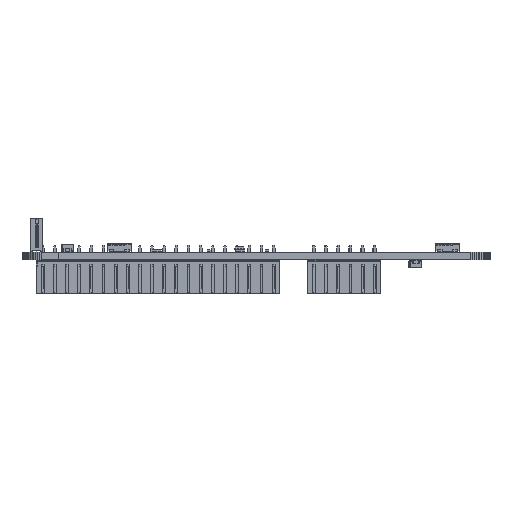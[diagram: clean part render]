
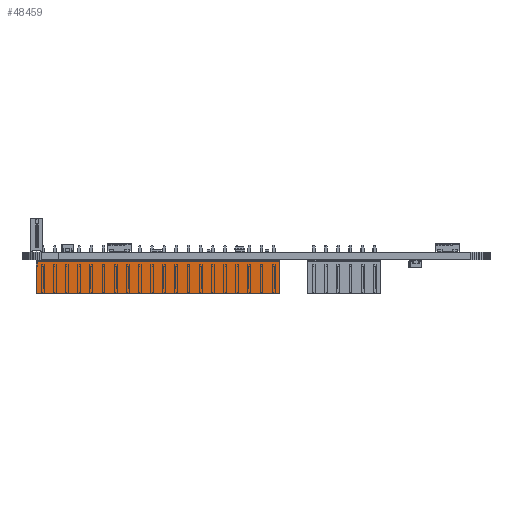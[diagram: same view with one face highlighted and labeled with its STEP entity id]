
A CAD part, left-side view. The second image highlights one B-rep face of the part: STEP entity #48459.
In plain terms, the highlighted planar face has unit normal (-1, 0, 0).
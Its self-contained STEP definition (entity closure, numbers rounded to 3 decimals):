
#35053 = PLANE('',#35054);
#35054 = AXIS2_PLACEMENT_3D('',#35055,#35056,#35057);
#35055 = CARTESIAN_POINT('',(-3.81,-49.53,0.));
#35056 = DIRECTION('',(0.,1.,0.));
#35057 = DIRECTION('',(1.,0.,0.));
#35081 = PLANE('',#35082);
#35082 = AXIS2_PLACEMENT_3D('',#35083,#35084,#35085);
#35083 = CARTESIAN_POINT('',(1.27,-49.53,7.));
#35084 = DIRECTION('',(-0.,0.,-1.));
#35085 = DIRECTION('',(0.,-1.,-0.));
#35109 = PLANE('',#35110);
#35110 = AXIS2_PLACEMENT_3D('',#35111,#35112,#35113);
#35111 = CARTESIAN_POINT('',(1.27,1.27,0.));
#35112 = DIRECTION('',(0.,-1.,0.));
#35113 = DIRECTION('',(-1.,0.,0.));
#35151 = VERTEX_POINT('',#35152);
#35152 = CARTESIAN_POINT('',(-3.81,-49.53,0.));
#35168 = PLANE('',#35169);
#35169 = AXIS2_PLACEMENT_3D('',#35170,#35171,#35172);
#35170 = CARTESIAN_POINT('',(1.27,-49.53,0.));
#35171 = DIRECTION('',(-0.,0.,-1.));
#35172 = DIRECTION('',(0.,-1.,-0.));
#35180 = EDGE_CURVE('',#35151,#35181,#35183,.T.);
#35181 = VERTEX_POINT('',#35182);
#35182 = CARTESIAN_POINT('',(-3.81,-49.53,7.));
#35183 = SURFACE_CURVE('',#35184,(#35188,#35195),.PCURVE_S1.);
#35184 = LINE('',#35185,#35186);
#35185 = CARTESIAN_POINT('',(-3.81,-49.53,0.));
#35186 = VECTOR('',#35187,1.);
#35187 = DIRECTION('',(0.,0.,1.));
#35188 = PCURVE('',#35053,#35189);
#35189 = DEFINITIONAL_REPRESENTATION('',(#35190),#35194);
#35190 = LINE('',#35191,#35192);
#35191 = CARTESIAN_POINT('',(0.,0.));
#35192 = VECTOR('',#35193,1.);
#35193 = DIRECTION('',(0.,-1.));
#35194 = ( GEOMETRIC_REPRESENTATION_CONTEXT(2) 
PARAMETRIC_REPRESENTATION_CONTEXT() REPRESENTATION_CONTEXT('2D SPACE',''
  ) );
#35195 = PCURVE('',#35196,#35201);
#35196 = PLANE('',#35197);
#35197 = AXIS2_PLACEMENT_3D('',#35198,#35199,#35200);
#35198 = CARTESIAN_POINT('',(-3.81,1.27,0.));
#35199 = DIRECTION('',(1.,0.,0.));
#35200 = DIRECTION('',(0.,-1.,0.));
#35201 = DEFINITIONAL_REPRESENTATION('',(#35202),#35206);
#35202 = LINE('',#35203,#35204);
#35203 = CARTESIAN_POINT('',(50.8,0.));
#35204 = VECTOR('',#35205,1.);
#35205 = DIRECTION('',(0.,-1.));
#35206 = ( GEOMETRIC_REPRESENTATION_CONTEXT(2) 
PARAMETRIC_REPRESENTATION_CONTEXT() REPRESENTATION_CONTEXT('2D SPACE',''
  ) );
#35363 = VERTEX_POINT('',#35364);
#35364 = CARTESIAN_POINT('',(-3.81,1.27,7.));
#35385 = EDGE_CURVE('',#35386,#35363,#35388,.T.);
#35386 = VERTEX_POINT('',#35387);
#35387 = CARTESIAN_POINT('',(-3.81,1.27,0.));
#35388 = SURFACE_CURVE('',#35389,(#35393,#35400),.PCURVE_S1.);
#35389 = LINE('',#35390,#35391);
#35390 = CARTESIAN_POINT('',(-3.81,1.27,0.));
#35391 = VECTOR('',#35392,1.);
#35392 = DIRECTION('',(0.,0.,1.));
#35393 = PCURVE('',#35109,#35394);
#35394 = DEFINITIONAL_REPRESENTATION('',(#35395),#35399);
#35395 = LINE('',#35396,#35397);
#35396 = CARTESIAN_POINT('',(5.08,0.));
#35397 = VECTOR('',#35398,1.);
#35398 = DIRECTION('',(0.,-1.));
#35399 = ( GEOMETRIC_REPRESENTATION_CONTEXT(2) 
PARAMETRIC_REPRESENTATION_CONTEXT() REPRESENTATION_CONTEXT('2D SPACE',''
  ) );
#35400 = PCURVE('',#35196,#35401);
#35401 = DEFINITIONAL_REPRESENTATION('',(#35402),#35406);
#35402 = LINE('',#35403,#35404);
#35403 = CARTESIAN_POINT('',(0.,0.));
#35404 = VECTOR('',#35405,1.);
#35405 = DIRECTION('',(0.,-1.));
#35406 = ( GEOMETRIC_REPRESENTATION_CONTEXT(2) 
PARAMETRIC_REPRESENTATION_CONTEXT() REPRESENTATION_CONTEXT('2D SPACE',''
  ) );
#35530 = EDGE_CURVE('',#35363,#35181,#35531,.T.);
#35531 = SURFACE_CURVE('',#35532,(#35536,#35543),.PCURVE_S1.);
#35532 = LINE('',#35533,#35534);
#35533 = CARTESIAN_POINT('',(-3.81,1.27,7.));
#35534 = VECTOR('',#35535,1.);
#35535 = DIRECTION('',(0.,-1.,0.));
#35536 = PCURVE('',#35081,#35537);
#35537 = DEFINITIONAL_REPRESENTATION('',(#35538),#35542);
#35538 = LINE('',#35539,#35540);
#35539 = CARTESIAN_POINT('',(-50.8,5.08));
#35540 = VECTOR('',#35541,1.);
#35541 = DIRECTION('',(1.,0.));
#35542 = ( GEOMETRIC_REPRESENTATION_CONTEXT(2) 
PARAMETRIC_REPRESENTATION_CONTEXT() REPRESENTATION_CONTEXT('2D SPACE',''
  ) );
#35543 = PCURVE('',#35196,#35544);
#35544 = DEFINITIONAL_REPRESENTATION('',(#35545),#35549);
#35545 = LINE('',#35546,#35547);
#35546 = CARTESIAN_POINT('',(0.,-7.));
#35547 = VECTOR('',#35548,1.);
#35548 = DIRECTION('',(1.,0.));
#35549 = ( GEOMETRIC_REPRESENTATION_CONTEXT(2) 
PARAMETRIC_REPRESENTATION_CONTEXT() REPRESENTATION_CONTEXT('2D SPACE',''
  ) );
#40137 = EDGE_CURVE('',#35386,#35151,#40138,.T.);
#40138 = SURFACE_CURVE('',#40139,(#40143,#40150),.PCURVE_S1.);
#40139 = LINE('',#40140,#40141);
#40140 = CARTESIAN_POINT('',(-3.81,1.27,0.));
#40141 = VECTOR('',#40142,1.);
#40142 = DIRECTION('',(0.,-1.,0.));
#40143 = PCURVE('',#35168,#40144);
#40144 = DEFINITIONAL_REPRESENTATION('',(#40145),#40149);
#40145 = LINE('',#40146,#40147);
#40146 = CARTESIAN_POINT('',(-50.8,5.08));
#40147 = VECTOR('',#40148,1.);
#40148 = DIRECTION('',(1.,0.));
#40149 = ( GEOMETRIC_REPRESENTATION_CONTEXT(2) 
PARAMETRIC_REPRESENTATION_CONTEXT() REPRESENTATION_CONTEXT('2D SPACE',''
  ) );
#40150 = PCURVE('',#35196,#40151);
#40151 = DEFINITIONAL_REPRESENTATION('',(#40152),#40156);
#40152 = LINE('',#40153,#40154);
#40153 = CARTESIAN_POINT('',(0.,0.));
#40154 = VECTOR('',#40155,1.);
#40155 = DIRECTION('',(1.,0.));
#40156 = ( GEOMETRIC_REPRESENTATION_CONTEXT(2) 
PARAMETRIC_REPRESENTATION_CONTEXT() REPRESENTATION_CONTEXT('2D SPACE',''
  ) );
#48459 = ADVANCED_FACE('',(#48460),#35196,.F.);
#48460 = FACE_BOUND('',#48461,.F.);
#48461 = EDGE_LOOP('',(#48462,#48463,#48464,#48465));
#48462 = ORIENTED_EDGE('',*,*,#35385,.T.);
#48463 = ORIENTED_EDGE('',*,*,#35530,.T.);
#48464 = ORIENTED_EDGE('',*,*,#35180,.F.);
#48465 = ORIENTED_EDGE('',*,*,#40137,.F.);
